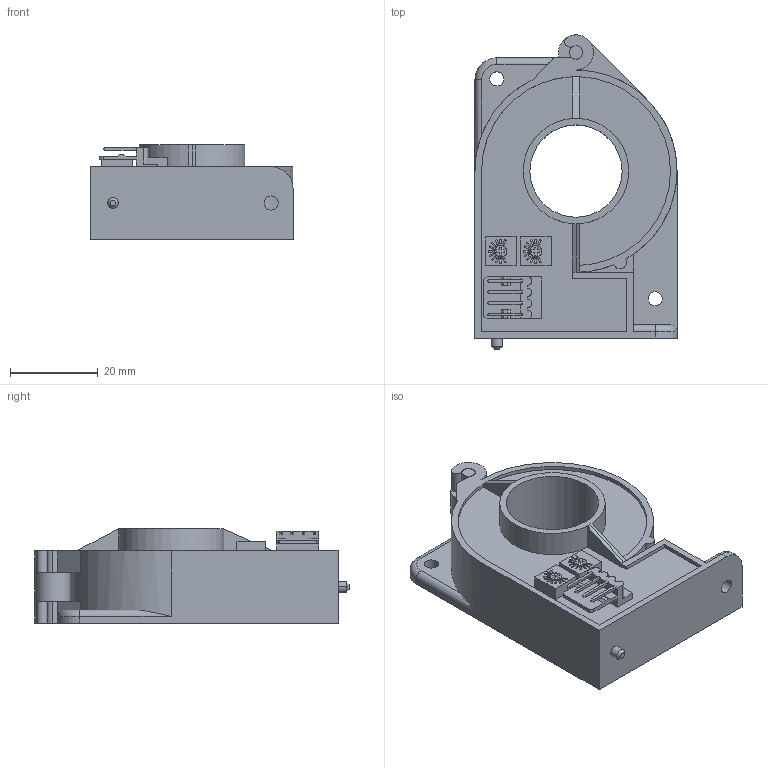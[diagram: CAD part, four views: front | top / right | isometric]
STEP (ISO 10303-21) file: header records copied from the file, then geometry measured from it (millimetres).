
FILE_DESCRIPTION(('Creo Elements/Direct Modeling STEP Export'),'2;1');
FILE_NAME('HTR SB black box.stp','2014-01-07T 9:36:08',(''),(''),'Creo Elements/Direct Modeling STEP processor for AP214 (Solid Model)','Creo Elements/Direct Modeling 17.0C 05-Feb-2011 (C) Parametric Technology GmbH','');
FILE_SCHEMA(('AUTOMOTIVE_DESIGN { 1 0 10303 214 1 1 1 1 }'));
Length unit declared in the file: millimetre
Products named in the file (1): CASE-A
Bounding box: 46 x 71.5 x 21.5 mm (x, y, z)
Volume: 34690.5 mm3; surface area: 12229 mm2
Topology: 1 solids, 1 shells, 334 faces, 853 edges, 559 vertices
Faces by surface type: plane 225, cylinder 105, cone 2, torus 2
Entity records: 10769 total; most frequent: CARTESIAN_POINT 1766, ORIENTED_EDGE 1706, DIRECTION 1674, EDGE_CURVE 853, VECTOR 616, LINE 616, VERTEX_POINT 559, AXIS2_PLACEMENT_3D 529
